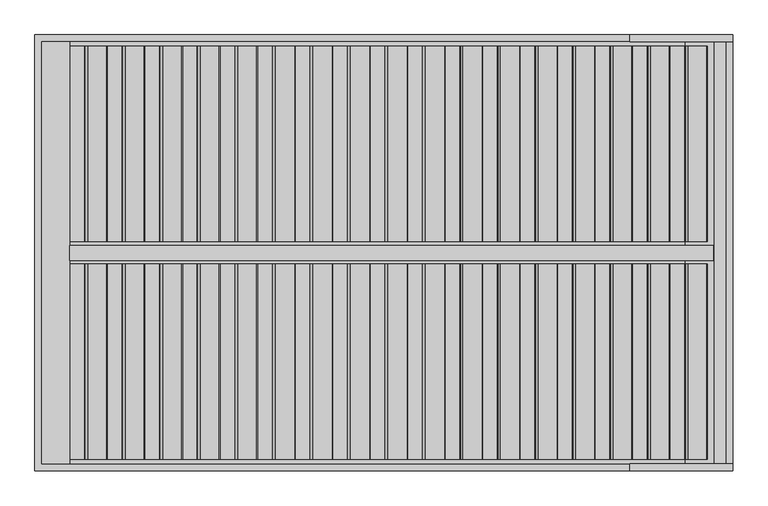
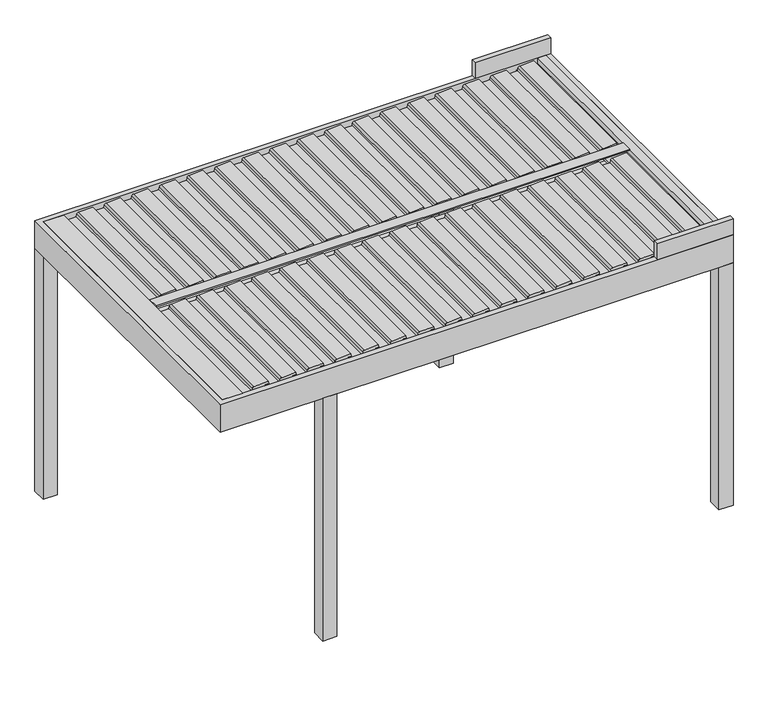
"""IFC4 building model written with IfcOpenShell, lengths in millimetres: proxy geometry, Renson_Algarve_Single Unit With Intermediate Beam : Algarve - Single Unit With Intermediate Beam."""

from ifc_helpers import new_model, si_unit, point, frame, frame_2d, origin, origin_with_axes, place, context, project, spatial, polyline, circle_curve, trimmed, segment, composite_curve, outline, extrude, faceted_brep, source, transform, mapped, element, save


def generic_models_93a3973e(model_context):
    return source(origin(), model_context, "Body", "SolidModel", [
        extrude(outline(composite_curve([segment(polyline([(2188.35, 1609.6114167), (2216.01198, 1612.0315264), (2217.3970364, 1640.8667769), (2236.8911096, 1637.4294458), (2231.6075693, 1527.4323309)]), True, "CONTINUOUS"), segment(trimmed(circle_curve(frame_2d((2216.6248435, 1528.1520029)), 15.0), [point((2231.6075693, 1527.4323309))], [point((2219.2295662, 1513.3798866))], False, "CARTESIAN"), True, "CONTINUOUS"), segment(polyline([(2219.2295662, 1513.3798866), (2200.0, 1509.9891952), (2200.0, 1422.2534192), (2217.0788237, 1419.2419618), (2216.3450182, 1403.9649913), (2188.35, 1401.5157446), (2188.35, 1609.6114167)]), True, "CONTINUOUS")], self_intersect=False)), frame((0.0, -1810.0, 0.0), z_axis=(0.0, 1.0, 0.0), x_axis=(0.0, 0.0, 1.0)), (0.0, 0.0, 1.0), 1120.0),
        extrude(outline(composite_curve([segment(polyline([(2188.35, 1394.600612), (2216.01198, 1397.0207216), (2217.3970364, 1425.8559721), (2236.8911096, 1422.418641), (2231.6075693, 1312.4215261)]), True, "CONTINUOUS"), segment(trimmed(circle_curve(frame_2d((2216.6248435, 1313.1411981)), 15.0), [point((2231.6075693, 1312.4215261))], [point((2219.2295662, 1298.3690818))], False, "CARTESIAN"), True, "CONTINUOUS"), segment(polyline([(2219.2295662, 1298.3690818), (2200.0, 1294.9783904), (2200.0, 1207.2426144), (2217.0788237, 1204.231157), (2216.3450182, 1188.9541865), (2188.35, 1186.5049398), (2188.35, 1394.600612)]), True, "CONTINUOUS")], self_intersect=False)), frame((0.0, -1810.0, 0.0), z_axis=(0.0, 1.0, 0.0), x_axis=(0.0, 0.0, 1.0)), (0.0, 0.0, 1.0), 1120.0),
        extrude(outline(composite_curve([segment(polyline([(2188.35, 1179.5898072), (2216.01198, 1182.0099168), (2217.3970364, 1210.8451673), (2236.8911096, 1207.4078362), (2231.6075693, 1097.4107214)]), True, "CONTINUOUS"), segment(trimmed(circle_curve(frame_2d((2216.6248435, 1098.1303933)), 15.0), [point((2231.6075693, 1097.4107214))], [point((2219.2295662, 1083.358277))], False, "CARTESIAN"), True, "CONTINUOUS"), segment(polyline([(2219.2295662, 1083.358277), (2200.0, 1079.9675857), (2200.0, 992.2318096), (2217.0788237, 989.2203522), (2216.3450182, 973.9433817), (2188.35, 971.494135), (2188.35, 1179.5898072)]), True, "CONTINUOUS")], self_intersect=False)), frame((0.0, -1810.0, 0.0), z_axis=(0.0, 1.0, 0.0), x_axis=(0.0, 0.0, 1.0)), (0.0, 0.0, 1.0), 1120.0),
        extrude(outline(composite_curve([segment(polyline([(2188.35, 964.5790024), (2216.01198, 966.999112), (2217.3970364, 995.8343625), (2236.8911096, 992.3970314), (2231.6075693, 882.3999166)]), True, "CONTINUOUS"), segment(trimmed(circle_curve(frame_2d((2216.6248435, 883.1195885)), 15.0), [point((2231.6075693, 882.3999166))], [point((2219.2295662, 868.3474722))], False, "CARTESIAN"), True, "CONTINUOUS"), segment(polyline([(2219.2295662, 868.3474722), (2200.0, 864.9567809), (2200.0, 777.2210048), (2217.0788237, 774.2095474), (2216.3450182, 758.932577), (2188.35, 756.4833302), (2188.35, 964.5790024)]), True, "CONTINUOUS")], self_intersect=False)), frame((0.0, -1810.0, 0.0), z_axis=(0.0, 1.0, 0.0), x_axis=(0.0, 0.0, 1.0)), (0.0, 0.0, 1.0), 1120.0),
        extrude(outline(composite_curve([segment(polyline([(2188.35, 749.5681976), (2216.01198, 751.9883073), (2217.3970364, 780.8235577), (2236.8911096, 777.3862267), (2231.6075693, 667.3891118)]), True, "CONTINUOUS"), segment(trimmed(circle_curve(frame_2d((2216.6248435, 668.1087837)), 15.0), [point((2231.6075693, 667.3891118))], [point((2219.2295662, 653.3366674))], False, "CARTESIAN"), True, "CONTINUOUS"), segment(polyline([(2219.2295662, 653.3366674), (2200.0, 649.9459761), (2200.0, 562.2102001), (2217.0788237, 559.1987426), (2216.3450182, 543.9217722), (2188.35, 541.4725254), (2188.35, 749.5681976)]), True, "CONTINUOUS")], self_intersect=False)), frame((0.0, -1810.0, 0.0), z_axis=(0.0, 1.0, 0.0), x_axis=(0.0, 0.0, 1.0)), (0.0, 0.0, 1.0), 1120.0),
        extrude(outline(composite_curve([segment(polyline([(2188.35, 534.5573928), (2216.01198, 536.9775025), (2217.3970364, 565.8127529), (2236.8911096, 562.3754219), (2231.6075693, 452.378307)]), True, "CONTINUOUS"), segment(trimmed(circle_curve(frame_2d((2216.6248435, 453.0979789)), 15.0), [point((2231.6075693, 452.378307))], [point((2219.2295662, 438.3258627))], False, "CARTESIAN"), True, "CONTINUOUS"), segment(polyline([(2219.2295662, 438.3258627), (2200.0, 434.9351713), (2200.0, 347.1993953), (2217.0788237, 344.1879379), (2216.3450182, 328.9109674), (2188.35, 326.4617207), (2188.35, 534.5573928)]), True, "CONTINUOUS")], self_intersect=False)), frame((0.0, -1810.0, 0.0), z_axis=(0.0, 1.0, 0.0), x_axis=(0.0, 0.0, 1.0)), (0.0, 0.0, 1.0), 1120.0),
        extrude(outline(composite_curve([segment(polyline([(2188.35, 319.546588), (2216.01198, 321.9666977), (2217.3970364, 350.8019482), (2236.8911096, 347.3646171), (2231.6075693, 237.3675022)]), True, "CONTINUOUS"), segment(trimmed(circle_curve(frame_2d((2216.6248435, 238.0871742)), 15.0), [point((2231.6075693, 237.3675022))], [point((2219.2295662, 223.3150579))], False, "CARTESIAN"), True, "CONTINUOUS"), segment(polyline([(2219.2295662, 223.3150579), (2200.0, 219.9243665), (2200.0, 132.1885905), (2217.0788237, 129.1771331), (2216.3450182, 113.9001626), (2188.35, 111.4509159), (2188.35, 319.546588)]), True, "CONTINUOUS")], self_intersect=False)), frame((0.0, -1810.0, 0.0), z_axis=(0.0, 1.0, 0.0), x_axis=(0.0, 0.0, 1.0)), (0.0, 0.0, 1.0), 1120.0),
        extrude(outline(composite_curve([segment(polyline([(2188.35, 104.5357833), (2216.01198, 106.9558929), (2217.3970364, 135.7911434), (2236.8911096, 132.3538123), (2231.6075693, 22.3566975)]), True, "CONTINUOUS"), segment(trimmed(circle_curve(frame_2d((2216.6248435, 23.0763694)), 15.0), [point((2231.6075693, 22.3566975))], [point((2219.2295662, 8.3042531))], False, "CARTESIAN"), True, "CONTINUOUS"), segment(polyline([(2219.2295662, 8.3042531), (2200.0, 4.9135617), (2200.0, -82.8222143), (2217.0788237, -85.8336717), (2216.3450182, -101.1106422), (2188.35, -103.5598889), (2188.35, 104.5357833)]), True, "CONTINUOUS")], self_intersect=False)), frame((0.0, -1810.0, 0.0), z_axis=(0.0, 1.0, 0.0), x_axis=(0.0, 0.0, 1.0)), (0.0, 0.0, 1.0), 1120.0),
        extrude(outline(composite_curve([segment(polyline([(2188.35, -110.4750215), (2216.01198, -108.0549119), (2217.3970364, -79.2196614), (2236.8911096, -82.6569925), (2231.6075693, -192.6541073)]), True, "CONTINUOUS"), segment(trimmed(circle_curve(frame_2d((2216.6248435, -191.9344354)), 15.0), [point((2231.6075693, -192.6541073))], [point((2219.2295662, -206.7065517))], False, "CARTESIAN"), True, "CONTINUOUS"), segment(polyline([(2219.2295662, -206.7065517), (2200.0, -210.097243), (2200.0, -297.8330191), (2217.0788237, -300.8444765), (2216.3450182, -316.121447), (2188.35, -318.5706937), (2188.35, -110.4750215)]), True, "CONTINUOUS")], self_intersect=False)), frame((0.0, -1810.0, 0.0), z_axis=(0.0, 1.0, 0.0), x_axis=(0.0, 0.0, 1.0)), (0.0, 0.0, 1.0), 1120.0),
        extrude(outline(composite_curve([segment(polyline([(2188.35, -325.4858263), (2216.01198, -323.0657166), (2217.3970364, -294.2304662), (2236.8911096, -297.6677973), (2231.6075693, -407.6649121)]), True, "CONTINUOUS"), segment(trimmed(circle_curve(frame_2d((2216.6248435, -406.9452402)), 15.0), [point((2231.6075693, -407.6649121))], [point((2219.2295662, -421.7173565))], False, "CARTESIAN"), True, "CONTINUOUS"), segment(polyline([(2219.2295662, -421.7173565), (2200.0, -425.1080478), (2200.0, -512.8438238), (2217.0788237, -515.8552813), (2216.3450182, -531.1322517), (2188.35, -533.5814985), (2188.35, -325.4858263)]), True, "CONTINUOUS")], self_intersect=False)), frame((0.0, -1810.0, 0.0), z_axis=(0.0, 1.0, 0.0), x_axis=(0.0, 0.0, 1.0)), (0.0, 0.0, 1.0), 1120.0),
        extrude(outline(composite_curve([segment(polyline([(2188.35, -540.4966311), (2216.01198, -538.0765214), (2217.3970364, -509.241271), (2236.8911096, -512.678602), (2231.6075693, -622.6757169)]), True, "CONTINUOUS"), segment(trimmed(circle_curve(frame_2d((2216.6248435, -621.956045)), 15.0), [point((2231.6075693, -622.6757169))], [point((2219.2295662, -636.7281613))], False, "CARTESIAN"), True, "CONTINUOUS"), segment(polyline([(2219.2295662, -636.7281613), (2200.0, -640.1188526), (2200.0, -727.8546286), (2217.0788237, -730.866086), (2216.3450182, -746.1430565), (2188.35, -748.5923032), (2188.35, -540.4966311)]), True, "CONTINUOUS")], self_intersect=False)), frame((0.0, -1810.0, 0.0), z_axis=(0.0, 1.0, 0.0), x_axis=(0.0, 0.0, 1.0)), (0.0, 0.0, 1.0), 1120.0),
        extrude(outline(composite_curve([segment(polyline([(2188.35, -755.5074359), (2216.01198, -753.0873262), (2217.3970364, -724.2520757), (2236.8911096, -727.6894068), (2231.6075693, -837.6865217)]), True, "CONTINUOUS"), segment(trimmed(circle_curve(frame_2d((2216.6248435, -836.9668497)), 15.0), [point((2231.6075693, -837.6865217))], [point((2219.2295662, -851.738966))], False, "CARTESIAN"), True, "CONTINUOUS"), segment(polyline([(2219.2295662, -851.738966), (2200.0, -855.1296574), (2200.0, -942.8654334), (2217.0788237, -945.8768908), (2216.3450182, -961.1538613), (2188.35, -963.603108), (2188.35, -755.5074359)]), True, "CONTINUOUS")], self_intersect=False)), frame((0.0, -1810.0, 0.0), z_axis=(0.0, 1.0, 0.0), x_axis=(0.0, 0.0, 1.0)), (0.0, 0.0, 1.0), 1120.0),
        extrude(outline(composite_curve([segment(polyline([(2188.35, -970.5182406), (2216.01198, -968.098131), (2217.3970364, -939.2628805), (2236.8911096, -942.7002116), (2231.6075693, -1052.6973265)]), True, "CONTINUOUS"), segment(trimmed(circle_curve(frame_2d((2216.6248435, -1051.9776545)), 15.0), [point((2231.6075693, -1052.6973265))], [point((2219.2295662, -1066.7497708))], False, "CARTESIAN"), True, "CONTINUOUS"), segment(polyline([(2219.2295662, -1066.7497708), (2200.0, -1070.1404622), (2200.0, -1157.8762382), (2217.0788237, -1160.8876956), (2216.3450182, -1176.1646661), (2188.35, -1178.6139128), (2188.35, -970.5182406)]), True, "CONTINUOUS")], self_intersect=False)), frame((0.0, -1810.0, 0.0), z_axis=(0.0, 1.0, 0.0), x_axis=(0.0, 0.0, 1.0)), (0.0, 0.0, 1.0), 1120.0),
        extrude(outline(composite_curve([segment(polyline([(2188.35, -1185.5290454), (2216.01198, -1183.1089358), (2217.3970364, -1154.2736853), (2236.8911096, -1157.7110164), (2231.6075693, -1267.7081312)]), True, "CONTINUOUS"), segment(trimmed(circle_curve(frame_2d((2216.6248435, -1266.9884593)), 15.0), [point((2231.6075693, -1267.7081312))], [point((2219.2295662, -1281.7605756))], False, "CARTESIAN"), True, "CONTINUOUS"), segment(polyline([(2219.2295662, -1281.7605756), (2200.0, -1285.1512669), (2200.0, -1372.887043), (2217.0788237, -1375.8985004), (2216.3450182, -1391.1754709), (2188.35, -1393.6247176), (2188.35, -1185.5290454)]), True, "CONTINUOUS")], self_intersect=False)), frame((0.0, -1810.0, 0.0), z_axis=(0.0, 1.0, 0.0), x_axis=(0.0, 0.0, 1.0)), (0.0, 0.0, 1.0), 1120.0),
        extrude(outline(composite_curve([segment(polyline([(2188.35, -1400.5398502), (2216.01198, -1398.1197405), (2217.3970364, -1369.2844901), (2236.8911096, -1372.7218212), (2231.6075693, -1482.718936)]), True, "CONTINUOUS"), segment(trimmed(circle_curve(frame_2d((2216.6248435, -1481.9992641)), 15.0), [point((2231.6075693, -1482.718936))], [point((2219.2295662, -1496.7713804))], False, "CARTESIAN"), True, "CONTINUOUS"), segment(polyline([(2219.2295662, -1496.7713804), (2200.0, -1500.1620717), (2200.0, -1587.8978478), (2217.0788237, -1590.9093052), (2216.3450182, -1606.1862756), (2188.35, -1608.6355224), (2188.35, -1400.5398502)]), True, "CONTINUOUS")], self_intersect=False)), frame((0.0, -1810.0, 0.0), z_axis=(0.0, 1.0, 0.0), x_axis=(0.0, 0.0, 1.0)), (0.0, 0.0, 1.0), 1120.0),
        extrude(outline(composite_curve([segment(polyline([(2188.35, 1824.6222215), (2216.01198, 1827.0423312), (2217.3970364, 1855.8775816), (2236.8911096, 1852.4402506), (2231.6075693, 1742.4431357)]), True, "CONTINUOUS"), segment(trimmed(circle_curve(frame_2d((2216.6248435, 1743.1628076)), 15.0), [point((2231.6075693, 1742.4431357))], [point((2219.2295662, 1728.3906913))], False, "CARTESIAN"), True, "CONTINUOUS"), segment(polyline([(2219.2295662, 1728.3906913), (2200.0, 1725.0), (2200.0, 1637.264224), (2217.0788237, 1634.2527666), (2216.3450182, 1618.9757961), (2188.35, 1616.5265494), (2188.35, 1824.6222215)]), True, "CONTINUOUS")], self_intersect=False)), frame((0.0, -1810.0, 0.0), z_axis=(0.0, 1.0, 0.0), x_axis=(0.0, 0.0, 1.0)), (0.0, 0.0, 1.0), 1120.0),
        extrude(outline(composite_curve([segment(polyline([(2188.35, -1615.550655), (2216.01198, -1613.1305453), (2217.3970364, -1584.2952949), (2236.8911096, -1587.7326259), (2231.6075693, -1697.7297408)]), True, "CONTINUOUS"), segment(trimmed(circle_curve(frame_2d((2216.6248435, -1697.0100689)), 15.0), [point((2231.6075693, -1697.7297408))], [point((2219.2295662, -1711.7821852))], False, "CARTESIAN"), True, "CONTINUOUS"), segment(polyline([(2219.2295662, -1711.7821852), (2200.0, -1715.1728765), (2200.0, -1802.9086525), (2217.0788237, -1805.9201099), (2216.3450182, -1821.1970804), (2188.35, -1823.6463271), (2188.35, -1615.550655)]), True, "CONTINUOUS")], self_intersect=False)), frame((0.0, -1810.0, 0.0), z_axis=(0.0, 1.0, 0.0), x_axis=(0.0, 0.0, 1.0)), (0.0, 0.0, 1.0), 1120.0),
        extrude(outline(composite_curve([segment(polyline([(2188.35, 1609.6114167), (2216.01198, 1612.0315264), (2217.3970364, 1640.8667769), (2236.8911096, 1637.4294458), (2231.6075693, 1527.4323309)]), True, "CONTINUOUS"), segment(trimmed(circle_curve(frame_2d((2216.6248435, 1528.1520029)), 15.0), [point((2231.6075693, 1527.4323309))], [point((2219.2295662, 1513.3798866))], False, "CARTESIAN"), True, "CONTINUOUS"), segment(polyline([(2219.2295662, 1513.3798866), (2200.0, 1509.9891952), (2200.0, 1422.2534192), (2217.0788237, 1419.2419618), (2216.3450182, 1403.9649913), (2188.35, 1401.5157446), (2188.35, 1609.6114167)]), True, "CONTINUOUS")], self_intersect=False)), frame((0.0, -560.0, 0.0), z_axis=(0.0, 1.0, 0.0), x_axis=(0.0, 0.0, 1.0)), (0.0, 0.0, 1.0), 1120.0),
        extrude(outline(composite_curve([segment(polyline([(2188.35, 1394.600612), (2216.01198, 1397.0207216), (2217.3970364, 1425.8559721), (2236.8911096, 1422.418641), (2231.6075693, 1312.4215261)]), True, "CONTINUOUS"), segment(trimmed(circle_curve(frame_2d((2216.6248435, 1313.1411981)), 15.0), [point((2231.6075693, 1312.4215261))], [point((2219.2295662, 1298.3690818))], False, "CARTESIAN"), True, "CONTINUOUS"), segment(polyline([(2219.2295662, 1298.3690818), (2200.0, 1294.9783904), (2200.0, 1207.2426144), (2217.0788237, 1204.231157), (2216.3450182, 1188.9541865), (2188.35, 1186.5049398), (2188.35, 1394.600612)]), True, "CONTINUOUS")], self_intersect=False)), frame((0.0, -560.0, 0.0), z_axis=(0.0, 1.0, 0.0), x_axis=(0.0, 0.0, 1.0)), (0.0, 0.0, 1.0), 1120.0),
        extrude(outline(composite_curve([segment(polyline([(2188.35, 1179.5898072), (2216.01198, 1182.0099168), (2217.3970364, 1210.8451673), (2236.8911096, 1207.4078362), (2231.6075693, 1097.4107214)]), True, "CONTINUOUS"), segment(trimmed(circle_curve(frame_2d((2216.6248435, 1098.1303933)), 15.0), [point((2231.6075693, 1097.4107214))], [point((2219.2295662, 1083.358277))], False, "CARTESIAN"), True, "CONTINUOUS"), segment(polyline([(2219.2295662, 1083.358277), (2200.0, 1079.9675857), (2200.0, 992.2318096), (2217.0788237, 989.2203522), (2216.3450182, 973.9433817), (2188.35, 971.494135), (2188.35, 1179.5898072)]), True, "CONTINUOUS")], self_intersect=False)), frame((0.0, -560.0, 0.0), z_axis=(0.0, 1.0, 0.0), x_axis=(0.0, 0.0, 1.0)), (0.0, 0.0, 1.0), 1120.0),
        extrude(outline(composite_curve([segment(polyline([(2188.35, 964.5790024), (2216.01198, 966.999112), (2217.3970364, 995.8343625), (2236.8911096, 992.3970314), (2231.6075693, 882.3999166)]), True, "CONTINUOUS"), segment(trimmed(circle_curve(frame_2d((2216.6248435, 883.1195885)), 15.0), [point((2231.6075693, 882.3999166))], [point((2219.2295662, 868.3474722))], False, "CARTESIAN"), True, "CONTINUOUS"), segment(polyline([(2219.2295662, 868.3474722), (2200.0, 864.9567809), (2200.0, 777.2210048), (2217.0788237, 774.2095474), (2216.3450182, 758.932577), (2188.35, 756.4833302), (2188.35, 964.5790024)]), True, "CONTINUOUS")], self_intersect=False)), frame((0.0, -560.0, 0.0), z_axis=(0.0, 1.0, 0.0), x_axis=(0.0, 0.0, 1.0)), (0.0, 0.0, 1.0), 1120.0),
        extrude(outline(composite_curve([segment(polyline([(2188.35, 749.5681976), (2216.01198, 751.9883073), (2217.3970364, 780.8235577), (2236.8911096, 777.3862267), (2231.6075693, 667.3891118)]), True, "CONTINUOUS"), segment(trimmed(circle_curve(frame_2d((2216.6248435, 668.1087837)), 15.0), [point((2231.6075693, 667.3891118))], [point((2219.2295662, 653.3366674))], False, "CARTESIAN"), True, "CONTINUOUS"), segment(polyline([(2219.2295662, 653.3366674), (2200.0, 649.9459761), (2200.0, 562.2102001), (2217.0788237, 559.1987426), (2216.3450182, 543.9217722), (2188.35, 541.4725254), (2188.35, 749.5681976)]), True, "CONTINUOUS")], self_intersect=False)), frame((0.0, -560.0, 0.0), z_axis=(0.0, 1.0, 0.0), x_axis=(0.0, 0.0, 1.0)), (0.0, 0.0, 1.0), 1120.0),
        extrude(outline(composite_curve([segment(polyline([(2188.35, 534.5573928), (2216.01198, 536.9775025), (2217.3970364, 565.8127529), (2236.8911096, 562.3754219), (2231.6075693, 452.378307)]), True, "CONTINUOUS"), segment(trimmed(circle_curve(frame_2d((2216.6248435, 453.0979789)), 15.0), [point((2231.6075693, 452.378307))], [point((2219.2295662, 438.3258627))], False, "CARTESIAN"), True, "CONTINUOUS"), segment(polyline([(2219.2295662, 438.3258627), (2200.0, 434.9351713), (2200.0, 347.1993953), (2217.0788237, 344.1879379), (2216.3450182, 328.9109674), (2188.35, 326.4617207), (2188.35, 534.5573928)]), True, "CONTINUOUS")], self_intersect=False)), frame((0.0, -560.0, 0.0), z_axis=(0.0, 1.0, 0.0), x_axis=(0.0, 0.0, 1.0)), (0.0, 0.0, 1.0), 1120.0),
        extrude(outline(composite_curve([segment(polyline([(2188.35, 319.546588), (2216.01198, 321.9666977), (2217.3970364, 350.8019482), (2236.8911096, 347.3646171), (2231.6075693, 237.3675022)]), True, "CONTINUOUS"), segment(trimmed(circle_curve(frame_2d((2216.6248435, 238.0871742)), 15.0), [point((2231.6075693, 237.3675022))], [point((2219.2295662, 223.3150579))], False, "CARTESIAN"), True, "CONTINUOUS"), segment(polyline([(2219.2295662, 223.3150579), (2200.0, 219.9243665), (2200.0, 132.1885905), (2217.0788237, 129.1771331), (2216.3450182, 113.9001626), (2188.35, 111.4509159), (2188.35, 319.546588)]), True, "CONTINUOUS")], self_intersect=False)), frame((0.0, -560.0, 0.0), z_axis=(0.0, 1.0, 0.0), x_axis=(0.0, 0.0, 1.0)), (0.0, 0.0, 1.0), 1120.0),
        extrude(outline(composite_curve([segment(polyline([(2188.35, 104.5357833), (2216.01198, 106.9558929), (2217.3970364, 135.7911434), (2236.8911096, 132.3538123), (2231.6075693, 22.3566975)]), True, "CONTINUOUS"), segment(trimmed(circle_curve(frame_2d((2216.6248435, 23.0763694)), 15.0), [point((2231.6075693, 22.3566975))], [point((2219.2295662, 8.3042531))], False, "CARTESIAN"), True, "CONTINUOUS"), segment(polyline([(2219.2295662, 8.3042531), (2200.0, 4.9135617), (2200.0, -82.8222143), (2217.0788237, -85.8336717), (2216.3450182, -101.1106422), (2188.35, -103.5598889), (2188.35, 104.5357833)]), True, "CONTINUOUS")], self_intersect=False)), frame((0.0, -560.0, 0.0), z_axis=(0.0, 1.0, 0.0), x_axis=(0.0, 0.0, 1.0)), (0.0, 0.0, 1.0), 1120.0),
        extrude(outline(composite_curve([segment(polyline([(2188.35, -110.4750215), (2216.01198, -108.0549119), (2217.3970364, -79.2196614), (2236.8911096, -82.6569925), (2231.6075693, -192.6541073)]), True, "CONTINUOUS"), segment(trimmed(circle_curve(frame_2d((2216.6248435, -191.9344354)), 15.0), [point((2231.6075693, -192.6541073))], [point((2219.2295662, -206.7065517))], False, "CARTESIAN"), True, "CONTINUOUS"), segment(polyline([(2219.2295662, -206.7065517), (2200.0, -210.097243), (2200.0, -297.8330191), (2217.0788237, -300.8444765), (2216.3450182, -316.121447), (2188.35, -318.5706937), (2188.35, -110.4750215)]), True, "CONTINUOUS")], self_intersect=False)), frame((0.0, -560.0, 0.0), z_axis=(0.0, 1.0, 0.0), x_axis=(0.0, 0.0, 1.0)), (0.0, 0.0, 1.0), 1120.0),
        extrude(outline(composite_curve([segment(polyline([(2188.35, -325.4858263), (2216.01198, -323.0657166), (2217.3970364, -294.2304662), (2236.8911096, -297.6677973), (2231.6075693, -407.6649121)]), True, "CONTINUOUS"), segment(trimmed(circle_curve(frame_2d((2216.6248435, -406.9452402)), 15.0), [point((2231.6075693, -407.6649121))], [point((2219.2295662, -421.7173565))], False, "CARTESIAN"), True, "CONTINUOUS"), segment(polyline([(2219.2295662, -421.7173565), (2200.0, -425.1080478), (2200.0, -512.8438238), (2217.0788237, -515.8552813), (2216.3450182, -531.1322517), (2188.35, -533.5814985), (2188.35, -325.4858263)]), True, "CONTINUOUS")], self_intersect=False)), frame((0.0, -560.0, 0.0), z_axis=(0.0, 1.0, 0.0), x_axis=(0.0, 0.0, 1.0)), (0.0, 0.0, 1.0), 1120.0),
        extrude(outline(composite_curve([segment(polyline([(2188.35, -540.4966311), (2216.01198, -538.0765214), (2217.3970364, -509.241271), (2236.8911096, -512.678602), (2231.6075693, -622.6757169)]), True, "CONTINUOUS"), segment(trimmed(circle_curve(frame_2d((2216.6248435, -621.956045)), 15.0), [point((2231.6075693, -622.6757169))], [point((2219.2295662, -636.7281613))], False, "CARTESIAN"), True, "CONTINUOUS"), segment(polyline([(2219.2295662, -636.7281613), (2200.0, -640.1188526), (2200.0, -727.8546286), (2217.0788237, -730.866086), (2216.3450182, -746.1430565), (2188.35, -748.5923032), (2188.35, -540.4966311)]), True, "CONTINUOUS")], self_intersect=False)), frame((0.0, -560.0, 0.0), z_axis=(0.0, 1.0, 0.0), x_axis=(0.0, 0.0, 1.0)), (0.0, 0.0, 1.0), 1120.0),
        extrude(outline(composite_curve([segment(polyline([(2188.35, -755.5074359), (2216.01198, -753.0873262), (2217.3970364, -724.2520757), (2236.8911096, -727.6894068), (2231.6075693, -837.6865217)]), True, "CONTINUOUS"), segment(trimmed(circle_curve(frame_2d((2216.6248435, -836.9668497)), 15.0), [point((2231.6075693, -837.6865217))], [point((2219.2295662, -851.738966))], False, "CARTESIAN"), True, "CONTINUOUS"), segment(polyline([(2219.2295662, -851.738966), (2200.0, -855.1296574), (2200.0, -942.8654334), (2217.0788237, -945.8768908), (2216.3450182, -961.1538613), (2188.35, -963.603108), (2188.35, -755.5074359)]), True, "CONTINUOUS")], self_intersect=False)), frame((0.0, -560.0, 0.0), z_axis=(0.0, 1.0, 0.0), x_axis=(0.0, 0.0, 1.0)), (0.0, 0.0, 1.0), 1120.0),
        extrude(outline(composite_curve([segment(polyline([(2188.35, -970.5182406), (2216.01198, -968.098131), (2217.3970364, -939.2628805), (2236.8911096, -942.7002116), (2231.6075693, -1052.6973265)]), True, "CONTINUOUS"), segment(trimmed(circle_curve(frame_2d((2216.6248435, -1051.9776545)), 15.0), [point((2231.6075693, -1052.6973265))], [point((2219.2295662, -1066.7497708))], False, "CARTESIAN"), True, "CONTINUOUS"), segment(polyline([(2219.2295662, -1066.7497708), (2200.0, -1070.1404622), (2200.0, -1157.8762382), (2217.0788237, -1160.8876956), (2216.3450182, -1176.1646661), (2188.35, -1178.6139128), (2188.35, -970.5182406)]), True, "CONTINUOUS")], self_intersect=False)), frame((0.0, -560.0, 0.0), z_axis=(0.0, 1.0, 0.0), x_axis=(0.0, 0.0, 1.0)), (0.0, 0.0, 1.0), 1120.0),
        extrude(outline(composite_curve([segment(polyline([(2188.35, -1185.5290454), (2216.01198, -1183.1089358), (2217.3970364, -1154.2736853), (2236.8911096, -1157.7110164), (2231.6075693, -1267.7081312)]), True, "CONTINUOUS"), segment(trimmed(circle_curve(frame_2d((2216.6248435, -1266.9884593)), 15.0), [point((2231.6075693, -1267.7081312))], [point((2219.2295662, -1281.7605756))], False, "CARTESIAN"), True, "CONTINUOUS"), segment(polyline([(2219.2295662, -1281.7605756), (2200.0, -1285.1512669), (2200.0, -1372.887043), (2217.0788237, -1375.8985004), (2216.3450182, -1391.1754709), (2188.35, -1393.6247176), (2188.35, -1185.5290454)]), True, "CONTINUOUS")], self_intersect=False)), frame((0.0, -560.0, 0.0), z_axis=(0.0, 1.0, 0.0), x_axis=(0.0, 0.0, 1.0)), (0.0, 0.0, 1.0), 1120.0),
        extrude(outline(composite_curve([segment(polyline([(2188.35, -1400.5398502), (2216.01198, -1398.1197405), (2217.3970364, -1369.2844901), (2236.8911096, -1372.7218212), (2231.6075693, -1482.718936)]), True, "CONTINUOUS"), segment(trimmed(circle_curve(frame_2d((2216.6248435, -1481.9992641)), 15.0), [point((2231.6075693, -1482.718936))], [point((2219.2295662, -1496.7713804))], False, "CARTESIAN"), True, "CONTINUOUS"), segment(polyline([(2219.2295662, -1496.7713804), (2200.0, -1500.1620717), (2200.0, -1587.8978478), (2217.0788237, -1590.9093052), (2216.3450182, -1606.1862756), (2188.35, -1608.6355224), (2188.35, -1400.5398502)]), True, "CONTINUOUS")], self_intersect=False)), frame((0.0, -560.0, 0.0), z_axis=(0.0, 1.0, 0.0), x_axis=(0.0, 0.0, 1.0)), (0.0, 0.0, 1.0), 1120.0),
        extrude(outline(composite_curve([segment(polyline([(2188.35, 1824.6222215), (2216.01198, 1827.0423312), (2217.3970364, 1855.8775816), (2236.8911096, 1852.4402506), (2231.6075693, 1742.4431357)]), True, "CONTINUOUS"), segment(trimmed(circle_curve(frame_2d((2216.6248435, 1743.1628076)), 15.0), [point((2231.6075693, 1742.4431357))], [point((2219.2295662, 1728.3906913))], False, "CARTESIAN"), True, "CONTINUOUS"), segment(polyline([(2219.2295662, 1728.3906913), (2200.0, 1725.0), (2200.0, 1637.264224), (2217.0788237, 1634.2527666), (2216.3450182, 1618.9757961), (2188.35, 1616.5265494), (2188.35, 1824.6222215)]), True, "CONTINUOUS")], self_intersect=False)), frame((0.0, -560.0, 0.0), z_axis=(0.0, 1.0, 0.0), x_axis=(0.0, 0.0, 1.0)), (0.0, 0.0, 1.0), 1120.0),
        extrude(outline(composite_curve([segment(polyline([(2188.35, -1615.550655), (2216.01198, -1613.1305453), (2217.3970364, -1584.2952949), (2236.8911096, -1587.7326259), (2231.6075693, -1697.7297408)]), True, "CONTINUOUS"), segment(trimmed(circle_curve(frame_2d((2216.6248435, -1697.0100689)), 15.0), [point((2231.6075693, -1697.7297408))], [point((2219.2295662, -1711.7821852))], False, "CARTESIAN"), True, "CONTINUOUS"), segment(polyline([(2219.2295662, -1711.7821852), (2200.0, -1715.1728765), (2200.0, -1802.9086525), (2217.0788237, -1805.9201099), (2216.3450182, -1821.1970804), (2188.35, -1823.6463271), (2188.35, -1615.550655)]), True, "CONTINUOUS")], self_intersect=False)), frame((0.0, -560.0, 0.0), z_axis=(0.0, 1.0, 0.0), x_axis=(0.0, 0.0, 1.0)), (0.0, 0.0, 1.0), 1120.0),
        extrude(outline(polyline([(2168.0, 1960.0), (2230.0, 1960.0), (2230.0, 1896.0), (2188.0, 1896.0), (2188.0, 1730.0), (2168.0, 1730.0), (2168.0, 1960.0)])), frame((0.0, -1835.0, 0.0), z_axis=(0.0, 1.0, 0.0), x_axis=(0.0, 0.0, 1.0)), (0.0, 0.0, 1.0), 2420.0),
        extrude(outline(polyline([(2230.0, -1800.0), (2230.0, -1960.0), (2186.0, -1960.0), (2186.0, -1827.3193336), (2219.1716603, -1824.4171894), (2220.344502, -1800.0), (2230.0, -1800.0)])), frame((0.0, -1835.0, 0.0), z_axis=(0.0, 1.0, 0.0), x_axis=(0.0, 0.0, 1.0)), (0.0, 0.0, 1.0), 2420.0),
        extrude(outline(polyline([(2000.0, -1835.0), (2000.0, -1875.0), (1410.0, -1875.0), (1410.0, -1835.0), (2000.0, -1835.0)])), frame((0.0, 0.0, 2230.0), z_axis=(0.0, 0.0, 1.0), x_axis=(1.0, 0.0, 0.0)), (0.0, 0.0, 1.0), 130.0),
        extrude(outline(polyline([(1890.0, -588.0), (-1890.0, -588.0), (-1890.0, -515.0), (1890.0, -515.0), (1890.0, -588.0)])), frame((0.0, 0.0, 2000.0), z_axis=(0.0, 0.0, 1.0), x_axis=(1.0, 0.0, 0.0)), (0.0, 0.0, 1.0), 90.0),
        extrude(outline(polyline([(1890.0, -662.0), (1890.0, -735.0), (-1890.0, -735.0), (-1890.0, -662.0), (1890.0, -662.0)])), frame((0.0, 0.0, 2000.0), z_axis=(0.0, 0.0, 1.0), x_axis=(1.0, 0.0, 0.0)), (0.0, 0.0, 1.0), 90.0),
        extrude(outline(polyline([(1890.0, -582.5), (1890.0, -667.5), (-1800.0, -667.5), (-1800.0, -582.5), (1890.0, -582.5)])), frame((0.0, 0.0, 2230.0), z_axis=(0.0, 0.0, 1.0), x_axis=(1.0, 0.0, 0.0)), (0.0, 0.0, 1.0), 10.0),
        extrude(outline(polyline([(-1090.0, -1875.0), (-1200.0, -1875.0), (-1200.0, -1765.0), (-1090.0, -1765.0), (-1090.0, -1875.0)])), origin_with_axes(), (0.0, 0.0, 1.0), 2000.0),
        extrude(outline(polyline([(1200.0, 625.0), (1200.0, 515.0), (1090.0, 515.0), (1090.0, 625.0), (1200.0, 625.0)])), origin_with_axes(), (0.0, 0.0, 1.0), 2000.0),
        faceted_brep([(1890.0, 515.0, 2057.0), (1890.0, 515.0, 2000.0), (1890.0, -1765.0, 2000.0), (1890.0, -1765.0, 2057.0), (2000.0, 625.0, 2000.0), (2000.0, 625.0, 2230.0), (2000.0, -1875.0, 2230.0), (2000.0, -1875.0, 2000.0), (1960.0, 585.0, 2230.0), (1960.0, 585.0, 2057.0), (1960.0, -1835.0, 2057.0), (1960.0, -1835.0, 2230.0), (-1890.0, -1765.0, 2000.0), (-1890.0, -1765.0, 2057.0), (-2000.0, -1875.0, 2230.0), (-2000.0, -1875.0, 2000.0), (-1960.0, -1835.0, 2057.0), (-1960.0, -1835.0, 2230.0), (-1890.0, 515.0, 2000.0), (-1890.0, 515.0, 2057.0), (-2000.0, 625.0, 2230.0), (-2000.0, 625.0, 2000.0), (-1960.0, 585.0, 2057.0), (-1960.0, 585.0, 2230.0)], [[[0, 1, 2, 3]], [[4, 5, 6, 7]], [[8, 9, 10, 11]], [[3, 2, 12, 13]], [[7, 6, 14, 15]], [[11, 10, 16, 17]], [[13, 12, 18, 19]], [[15, 14, 20, 21]], [[17, 16, 22, 23]], [[9, 22, 16, 10], [3, 13, 19, 0]], [[19, 18, 1, 0]], [[7, 15, 21, 4], [1, 18, 12, 2]], [[21, 20, 5, 4]], [[5, 20, 14, 6], [11, 17, 23, 8]], [[23, 22, 9, 8]]]),
        extrude(outline(polyline([(2000.0, -1765.0), (2000.0, -1875.0), (1890.0, -1875.0), (1890.0, -1765.0), (2000.0, -1765.0)])), origin_with_axes(), (0.0, 0.0, 1.0), 2000.0),
        extrude(outline(polyline([(-1890.0, 625.0), (-1890.0, 515.0), (-2000.0, 515.0), (-2000.0, 625.0), (-1890.0, 625.0)])), origin_with_axes(), (0.0, 0.0, 1.0), 2000.0),
        extrude(outline(polyline([(2000.0, 625.0), (2000.0, 585.0), (1410.0, 585.0), (1410.0, 625.0), (2000.0, 625.0)])), frame((0.0, 0.0, 2230.0), z_axis=(0.0, 0.0, 1.0), x_axis=(1.0, 0.0, 0.0)), (0.0, 0.0, 1.0), 130.0),
    ])


if __name__ == "__main__":
    model = new_model("IFC4")
    model_context = context("Model", 3, world=origin())
    ifc_project = project(units=[si_unit("LENGTHUNIT", "METRE", prefix="MILLI")], contexts=[model_context])
    site = spatial("IfcSite", under=ifc_project)
    building = spatial("IfcBuilding", under=site)
    placement = place(None, origin())
    generic_models_shape = generic_models_93a3973e(model_context)
    element("IfcBuildingElementProxy", 1, Name="Renson_Algarve_Single Unit With Intermediate Beam : Algarve - Single Unit With Intermediate Beam", ObjectType="Renson_Algarve_Single Unit With Intermediate Beam : Algarve - Single Unit With Intermediate Beam", at=placement, inside=building, context=model_context, shape_type="MappedRepresentation", body=[
        mapped(generic_models_shape, transform((0.0, 0.0, 0.0), x_axis=(1.0, 0.0, 0.0), y_axis=(0.0, 1.0, 0.0), z_axis=(0.0, 0.0, 1.0))),
    ])
    save(model, "model.ifc")
